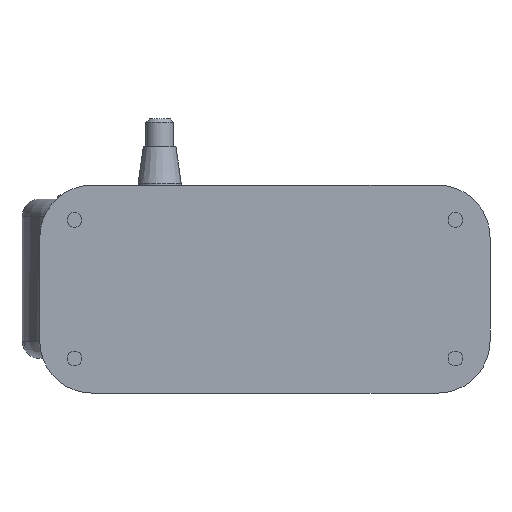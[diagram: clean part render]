
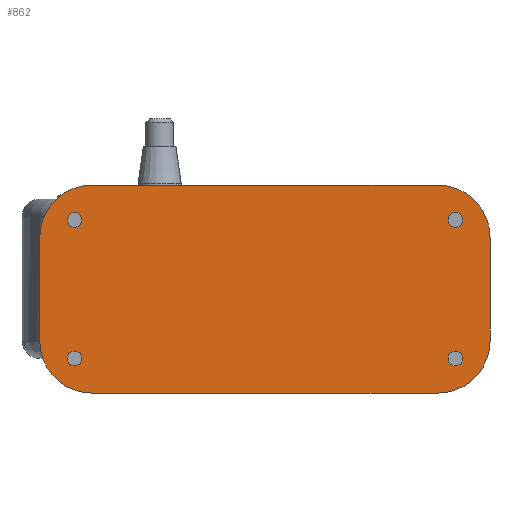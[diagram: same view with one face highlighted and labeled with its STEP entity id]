
A CAD part, front view. The second image highlights one B-rep face of the part: STEP entity #862.
In plain terms, the highlighted planar face has unit normal (0, -1, 0).
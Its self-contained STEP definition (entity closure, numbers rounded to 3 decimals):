
#10 = AXIS2_PLACEMENT_3D ( 'NONE', #1647, #616, #1818 ) ;
#58 = CARTESIAN_POINT ( 'NONE',  ( -131.323, 0., 60. ) ) ;
#68 = DIRECTION ( 'NONE',  ( 1., 0., 0. ) ) ;
#87 = CARTESIAN_POINT ( 'NONE',  ( -101.323, 0., -60. ) ) ;
#110 = CIRCLE ( 'NONE', #1424, 4.25 ) ;
#114 = FACE_BOUND ( 'NONE', #215, .T. ) ;
#131 = ORIENTED_EDGE ( 'NONE', *, *, #1393, .F. ) ;
#136 = ORIENTED_EDGE ( 'NONE', *, *, #1474, .T. ) ;
#163 = CARTESIAN_POINT ( 'NONE',  ( -131.323, 0., 30. ) ) ;
#168 = AXIS2_PLACEMENT_3D ( 'NONE', #1319, #243, #1480 ) ;
#176 = VERTEX_POINT ( 'NONE', #716 ) ;
#215 = EDGE_LOOP ( 'NONE', ( #232, #244 ) ) ;
#219 = EDGE_LOOP ( 'NONE', ( #1986, #959, #1671, #136, #462, #1138, #1145, #1331 ) ) ;
#224 = DIRECTION ( 'NONE',  ( 0., -1., 0. ) ) ;
#225 = AXIS2_PLACEMENT_3D ( 'NONE', #1584, #566, #1766 ) ;
#232 = ORIENTED_EDGE ( 'NONE', *, *, #621, .F. ) ;
#239 = EDGE_LOOP ( 'NONE', ( #1485, #1303 ) ) ;
#243 = DIRECTION ( 'NONE',  ( 0., -1., 0. ) ) ;
#244 = ORIENTED_EDGE ( 'NONE', *, *, #1615, .F. ) ;
#248 = DIRECTION ( 'NONE',  ( 0., 1., 0. ) ) ;
#253 = ORIENTED_EDGE ( 'NONE', *, *, #1582, .F. ) ;
#259 = VERTEX_POINT ( 'NONE', #2106 ) ;
#309 = VERTEX_POINT ( 'NONE', #2113 ) ;
#352 = LINE ( 'NONE', #58, #829 ) ;
#420 = CARTESIAN_POINT ( 'NONE',  ( 98.677, 0., -30. ) ) ;
#458 = CARTESIAN_POINT ( 'NONE',  ( 128.677, 0., -30. ) ) ;
#462 = ORIENTED_EDGE ( 'NONE', *, *, #1007, .F. ) ;
#468 = VERTEX_POINT ( 'NONE', #458 ) ;
#499 = CARTESIAN_POINT ( 'NONE',  ( -111.323, 0., -40. ) ) ;
#505 = VERTEX_POINT ( 'NONE', #1505 ) ;
#532 = CIRCLE ( 'NONE', #1531, 30. ) ;
#562 = CIRCLE ( 'NONE', #1355, 4.25 ) ;
#566 = DIRECTION ( 'NONE',  ( 0., -1., 0. ) ) ;
#576 = CARTESIAN_POINT ( 'NONE',  ( -107.073, 0., 40. ) ) ;
#597 = DIRECTION ( 'NONE',  ( -1., 0., 0. ) ) ;
#608 = CIRCLE ( 'NONE', #1946, 4.25 ) ;
#616 = DIRECTION ( 'NONE',  ( 0., -1., 0. ) ) ;
#621 = EDGE_CURVE ( 'NONE', #628, #505, #1529, .T. ) ;
#628 = VERTEX_POINT ( 'NONE', #2087 ) ;
#668 = DIRECTION ( 'NONE',  ( 1., 0., 0. ) ) ;
#694 = CARTESIAN_POINT ( 'NONE',  ( 108.677, 0., -40. ) ) ;
#700 = VERTEX_POINT ( 'NONE', #747 ) ;
#716 = CARTESIAN_POINT ( 'NONE',  ( 98.677, 0., 60. ) ) ;
#733 = EDGE_LOOP ( 'NONE', ( #2222, #131 ) ) ;
#737 = EDGE_CURVE ( 'NONE', #928, #468, #1324, .T. ) ;
#747 = CARTESIAN_POINT ( 'NONE',  ( 98.677, 0., -60. ) ) ;
#760 = VERTEX_POINT ( 'NONE', #1794 ) ;
#792 = VERTEX_POINT ( 'NONE', #941 ) ;
#829 = VECTOR ( 'NONE', #1348, 1000. ) ;
#838 = CARTESIAN_POINT ( 'NONE',  ( 108.677, 0., 40. ) ) ;
#862 = ADVANCED_FACE ( 'NONE', ( #114, #1447, #1894, #1049, #999 ), #1982, .F. ) ;
#863 = CARTESIAN_POINT ( 'NONE',  ( -101.323, 0., 30. ) ) ;
#873 = DIRECTION ( 'NONE',  ( 1., 0., 0. ) ) ;
#883 = CIRCLE ( 'NONE', #10, 4.25 ) ;
#921 = DIRECTION ( 'NONE',  ( 0., -1., 0. ) ) ;
#928 = VERTEX_POINT ( 'NONE', #1158 ) ;
#937 = DIRECTION ( 'NONE',  ( 0., -1., 0. ) ) ;
#941 = CARTESIAN_POINT ( 'NONE',  ( 104.427, 0., 40. ) ) ;
#959 = ORIENTED_EDGE ( 'NONE', *, *, #1364, .T. ) ;
#994 = EDGE_CURVE ( 'NONE', #1281, #1311, #352, .T. ) ;
#999 = FACE_OUTER_BOUND ( 'NONE', #219, .T. ) ;
#1007 = EDGE_CURVE ( 'NONE', #259, #176, #1690, .T. ) ;
#1019 = DIRECTION ( 'NONE',  ( 1., 0., 0. ) ) ;
#1021 = LINE ( 'NONE', #2218, #2304 ) ;
#1044 = DIRECTION ( 'NONE',  ( -1., 0., 0. ) ) ;
#1045 = CIRCLE ( 'NONE', #2130, 4.25 ) ;
#1049 = FACE_BOUND ( 'NONE', #239, .T. ) ;
#1061 = VERTEX_POINT ( 'NONE', #87 ) ;
#1075 = CARTESIAN_POINT ( 'NONE',  ( -111.323, 0., -40. ) ) ;
#1102 = EDGE_CURVE ( 'NONE', #259, #1281, #1972, .T. ) ;
#1118 = EDGE_CURVE ( 'NONE', #1061, #700, #1021, .T. ) ;
#1127 = EDGE_CURVE ( 'NONE', #1484, #1989, #562, .T. ) ;
#1130 = CARTESIAN_POINT ( 'NONE',  ( 112.927, 0., -40. ) ) ;
#1131 = AXIS2_PLACEMENT_3D ( 'NONE', #1075, #2249, #1239 ) ;
#1138 = ORIENTED_EDGE ( 'NONE', *, *, #1102, .T. ) ;
#1145 = ORIENTED_EDGE ( 'NONE', *, *, #994, .T. ) ;
#1158 = CARTESIAN_POINT ( 'NONE',  ( 128.677, 0., 30. ) ) ;
#1185 = CARTESIAN_POINT ( 'NONE',  ( -131.323, 0., 60. ) ) ;
#1195 = AXIS2_PLACEMENT_3D ( 'NONE', #1950, #937, #2117 ) ;
#1234 = VECTOR ( 'NONE', #68, 1000. ) ;
#1237 = AXIS2_PLACEMENT_3D ( 'NONE', #863, #2052, #1044 ) ;
#1239 = DIRECTION ( 'NONE',  ( 1., 0., 0. ) ) ;
#1244 = EDGE_CURVE ( 'NONE', #1884, #309, #1657, .T. ) ;
#1267 = CARTESIAN_POINT ( 'NONE',  ( 128.677, 0., 60. ) ) ;
#1273 = DIRECTION ( 'NONE',  ( 0., 0., -1. ) ) ;
#1281 = VERTEX_POINT ( 'NONE', #163 ) ;
#1303 = ORIENTED_EDGE ( 'NONE', *, *, #1873, .F. ) ;
#1304 = CARTESIAN_POINT ( 'NONE',  ( 108.677, 0., -40. ) ) ;
#1311 = VERTEX_POINT ( 'NONE', #1931 ) ;
#1319 = CARTESIAN_POINT ( 'NONE',  ( 98.677, 0., 30. ) ) ;
#1324 = LINE ( 'NONE', #1267, #1720 ) ;
#1331 = ORIENTED_EDGE ( 'NONE', *, *, #1336, .T. ) ;
#1336 = EDGE_CURVE ( 'NONE', #1311, #1061, #1548, .T. ) ;
#1348 = DIRECTION ( 'NONE',  ( 0., 0., -1. ) ) ;
#1355 = AXIS2_PLACEMENT_3D ( 'NONE', #694, #1893, #873 ) ;
#1364 = EDGE_CURVE ( 'NONE', #700, #468, #532, .T. ) ;
#1385 = DIRECTION ( 'NONE',  ( 1., 0., 0. ) ) ;
#1393 = EDGE_CURVE ( 'NONE', #1989, #1484, #110, .T. ) ;
#1424 = AXIS2_PLACEMENT_3D ( 'NONE', #1304, #224, #1470 ) ;
#1447 = FACE_BOUND ( 'NONE', #733, .T. ) ;
#1449 = EDGE_CURVE ( 'NONE', #792, #760, #883, .T. ) ;
#1454 = CARTESIAN_POINT ( 'NONE',  ( 104.427, 0., -40. ) ) ;
#1462 = ORIENTED_EDGE ( 'NONE', *, *, #1449, .F. ) ;
#1470 = DIRECTION ( 'NONE',  ( 1., 0., 0. ) ) ;
#1474 = EDGE_CURVE ( 'NONE', #928, #176, #1740, .T. ) ;
#1480 = DIRECTION ( 'NONE',  ( -1., 0., 0. ) ) ;
#1483 = DIRECTION ( 'NONE',  ( -1., 0., 0. ) ) ;
#1484 = VERTEX_POINT ( 'NONE', #1130 ) ;
#1485 = ORIENTED_EDGE ( 'NONE', *, *, #1244, .F. ) ;
#1505 = CARTESIAN_POINT ( 'NONE',  ( -115.573, 0., -40. ) ) ;
#1529 = CIRCLE ( 'NONE', #1131, 4.25 ) ;
#1531 = AXIS2_PLACEMENT_3D ( 'NONE', #420, #1628, #597 ) ;
#1548 = CIRCLE ( 'NONE', #1195, 30. ) ;
#1582 = EDGE_CURVE ( 'NONE', #760, #792, #2019, .T. ) ;
#1584 = CARTESIAN_POINT ( 'NONE',  ( -111.323, 0., 40. ) ) ;
#1615 = EDGE_CURVE ( 'NONE', #505, #628, #608, .T. ) ;
#1628 = DIRECTION ( 'NONE',  ( 0., -1., 0. ) ) ;
#1647 = CARTESIAN_POINT ( 'NONE',  ( 108.677, 0., 40. ) ) ;
#1657 = CIRCLE ( 'NONE', #225, 4.25 ) ;
#1671 = ORIENTED_EDGE ( 'NONE', *, *, #737, .F. ) ;
#1690 = LINE ( 'NONE', #1185, #1234 ) ;
#1700 = DIRECTION ( 'NONE',  ( 0., -1., 0. ) ) ;
#1720 = VECTOR ( 'NONE', #1273, 1000. ) ;
#1739 = AXIS2_PLACEMENT_3D ( 'NONE', #1819, #248, #1483 ) ;
#1740 = CIRCLE ( 'NONE', #168, 30. ) ;
#1766 = DIRECTION ( 'NONE',  ( 1., 0., 0. ) ) ;
#1794 = CARTESIAN_POINT ( 'NONE',  ( 112.927, 0., 40. ) ) ;
#1818 = DIRECTION ( 'NONE',  ( 1., 0., 0. ) ) ;
#1819 = CARTESIAN_POINT ( 'NONE',  ( -131.323, 0., 60. ) ) ;
#1831 = AXIS2_PLACEMENT_3D ( 'NONE', #838, #2026, #1019 ) ;
#1873 = EDGE_CURVE ( 'NONE', #309, #1884, #1045, .T. ) ;
#1884 = VERTEX_POINT ( 'NONE', #576 ) ;
#1893 = DIRECTION ( 'NONE',  ( 0., -1., 0. ) ) ;
#1894 = FACE_BOUND ( 'NONE', #2011, .T. ) ;
#1931 = CARTESIAN_POINT ( 'NONE',  ( -131.323, 0., -30. ) ) ;
#1939 = CARTESIAN_POINT ( 'NONE',  ( -111.323, 0., 40. ) ) ;
#1946 = AXIS2_PLACEMENT_3D ( 'NONE', #499, #1700, #668 ) ;
#1950 = CARTESIAN_POINT ( 'NONE',  ( -101.323, 0., -30. ) ) ;
#1972 = CIRCLE ( 'NONE', #1237, 30. ) ;
#1982 = PLANE ( 'NONE',  #1739 ) ;
#1986 = ORIENTED_EDGE ( 'NONE', *, *, #1118, .T. ) ;
#1989 = VERTEX_POINT ( 'NONE', #1454 ) ;
#2011 = EDGE_LOOP ( 'NONE', ( #253, #1462 ) ) ;
#2019 = CIRCLE ( 'NONE', #1831, 4.25 ) ;
#2026 = DIRECTION ( 'NONE',  ( 0., -1., 0. ) ) ;
#2052 = DIRECTION ( 'NONE',  ( 0., -1., 0. ) ) ;
#2087 = CARTESIAN_POINT ( 'NONE',  ( -107.073, 0., -40. ) ) ;
#2106 = CARTESIAN_POINT ( 'NONE',  ( -101.323, 0., 60. ) ) ;
#2108 = DIRECTION ( 'NONE',  ( 1., 0., 0. ) ) ;
#2113 = CARTESIAN_POINT ( 'NONE',  ( -115.573, 0., 40. ) ) ;
#2117 = DIRECTION ( 'NONE',  ( -1., 0., 0. ) ) ;
#2130 = AXIS2_PLACEMENT_3D ( 'NONE', #1939, #921, #2108 ) ;
#2218 = CARTESIAN_POINT ( 'NONE',  ( -131.323, 0., -60. ) ) ;
#2222 = ORIENTED_EDGE ( 'NONE', *, *, #1127, .F. ) ;
#2249 = DIRECTION ( 'NONE',  ( 0., -1., 0. ) ) ;
#2304 = VECTOR ( 'NONE', #1385, 1000. ) ;
